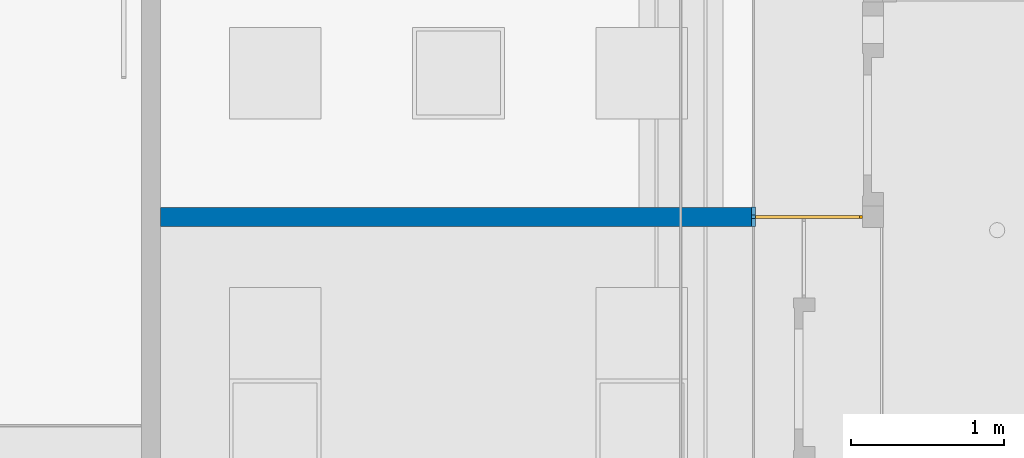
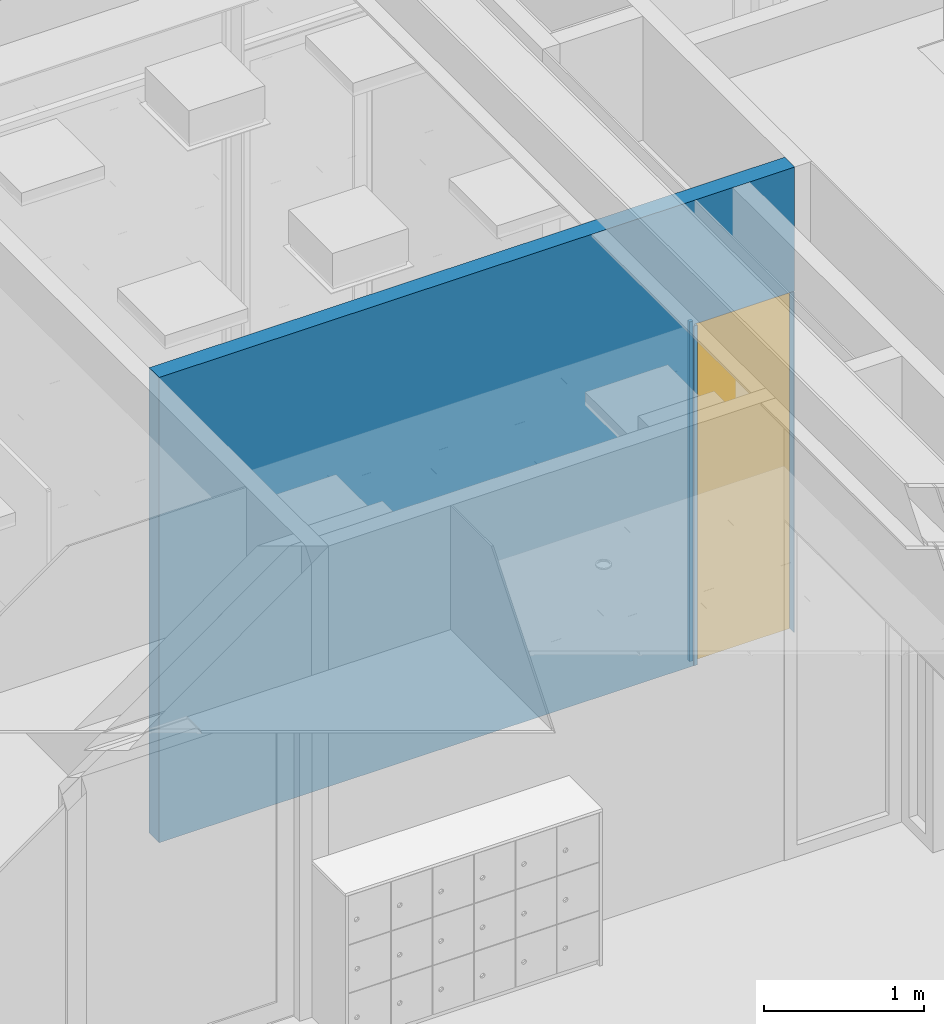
# One storey, part 65 of 347: 2 building element parts, 1 wall, 1 window, 2 openings, 1 element without a shape of its own.
"""IFC2X3 building model written with IfcOpenShell, lengths in millimetres."""

from ifc_helpers import new_model, entity, si_unit, converted_unit, derived_unit, money_unit, direction, frame, origin_with_axes, place, context, subcontext, project, spatial, open_shell, faceted_brep, surface_model, source, transform, mapped, material, type_object, type_shapes, element, fill, aggregate, save


model = new_model("IFC2X3")

# Units and contexts
model_context = context("Model", 3, precision=0.01, world=origin_with_axes(), true_north=direction((0.0, 1.0)))
plan_context = context("Plan", 3, precision=0.01, world=origin_with_axes(), true_north=direction((0.0, 1.0)))
body_context = subcontext(model_context, "Body", "Model", "MODEL_VIEW")
ifc_project = project(units=[si_unit("LENGTHUNIT", "METRE", prefix="MILLI"), si_unit("AREAUNIT", "SQUARE_METRE"), si_unit("VOLUMEUNIT", "CUBIC_METRE"), converted_unit("PLANEANGLEUNIT", "DEGREE", entity("IfcPlaneAngleMeasure", 0.0174532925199), si_unit("PLANEANGLEUNIT", "RADIAN"), dimensions=[0, 0, 0, 0, 0, 0, 0]), money_unit("EUR"), converted_unit("TIMEUNIT", "Year", entity("IfcTimeMeasure", 31556926.0), si_unit("TIMEUNIT", "SECOND"), dimensions=[0, 0, 1, 0, 0, 0, 0]), si_unit("MASSUNIT", "GRAM", prefix="KILO"), si_unit("THERMODYNAMICTEMPERATUREUNIT", "DEGREE_CELSIUS"), si_unit("LUMINOUSINTENSITYUNIT", "LUMEN"), si_unit("ENERGYUNIT", "JOULE", prefix="MEGA"), derived_unit("THERMALCONDUCTANCEUNIT", [(si_unit("POWERUNIT", "WATT"), 1), (si_unit("LENGTHUNIT", "METRE"), -1), (si_unit("THERMODYNAMICTEMPERATUREUNIT", "KELVIN"), -1)]), derived_unit("SPECIFICHEATCAPACITYUNIT", [(si_unit("ENERGYUNIT", "JOULE"), 1), (si_unit("MASSUNIT", "GRAM", prefix="KILO"), -1), (si_unit("THERMODYNAMICTEMPERATUREUNIT", "KELVIN"), -1)]), derived_unit("MASSDENSITYUNIT", [(si_unit("MASSUNIT", "GRAM", prefix="KILO"), 1), (si_unit("VOLUMEUNIT", "CUBIC_METRE"), -1)])], contexts=[model_context, plan_context])

# Site, building, storey
site_placement = place(None, origin_with_axes())
site = spatial("IfcSite", under=ifc_project, at=site_placement, Name="Site", CompositionType="ELEMENT")
building_placement = place(site_placement, origin_with_axes())
building = spatial("IfcBuilding", under=site, at=building_placement, Name="Naam gebouw", CompositionType="ELEMENT")
storey_placement = place(building_placement, origin_with_axes())
storey = spatial("IfcBuildingStorey", under=building, at=storey_placement, Name="begane grond", CompositionType="ELEMENT", Elevation=0.0)

# Wall, openings, windows, building element parts
ifc_material_1 = material(Name="ALG - LICHTE SCHEIDINGSWAND")
wall_type = type_object("IfcWallType", Name="ALG LSW 125 125", PredefinedType="NOTDEFINED")
wall_placement = place(storey_placement, frame((32075.0, 41087.5, 0.0), z_axis=(0.0, 0.0, 1.0), x_axis=(1.0, 0.0, 0.0)))
wall = element("IfcWall", 1, at=wall_placement, inside=storey, type_object=wall_type, material=ifc_material_1, Name="22_GF 125 ECO DGS/2.75.2A", context=body_context, shape_type="Brep", body=[
    faceted_brep([(4725.0, 125.0, 0.0), (4718.0, 125.0, 0.0), (4718.0, 124.99995108, 2600.0), (4725.00004134, 124.999950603, 2600.0), (4718.0, 0.0, 0.0), (4725.0, 0.0, 0.0), (4718.0, 0.0, 2600.0), (4725.00004134, 0.0, 2600.0)], [[[0, 1, 2, 3]], [[4, 1, 0, 5]], [[6, 2, 1, 4]], [[3, 2, 6, 7]], [[5, 0, 3, 7]], [[6, 4, 5, 7]]]),
    faceted_brep([(3999.99981485, 0.0, 2600.0), (3999.99983, 125.0, 2600.0), (3999.99983, 125.0, 2612.0), (3999.99981485, 0.0, 2612.0), (3994.0, 0.0, 2600.0), (3994.0, 125.0, 2600.0), (125.0, 125.0, 3560.0), (4725.0, 125.0, 3560.0), (4725.00004134, 124.999950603, 2612.0), (3994.0, 125.0, 0.0), (125.0, 125.0, 0.0), (4725.00004134, 0.0, 2612.0), (4725.0, 0.0, 3560.0), (125.0, 0.0, 3560.0), (125.0, 0.0, 0.0), (3994.0, 0.0, 0.0)], [[[0, 1, 2, 3]], [[4, 5, 1, 0]], [[6, 7, 8, 2, 1, 5, 9, 10]], [[2, 8, 11, 3]], [[4, 0, 3, 11, 12, 13, 14, 15]], [[15, 9, 5, 4]], [[13, 12, 7, 6]], [[11, 8, 7, 12]], [[10, 9, 15, 14]], [[14, 13, 6, 10]]]),
])
opening_1_placement = place(wall_placement, frame((4006.5, 0.0, 0.0), z_axis=(0.0, 0.0, 1.0), x_axis=(1.0, 0.0, 0.0)))
opening_1 = element("IfcOpeningElement", 2, at=opening_1_placement, cuts=wall, Name="31_-", context=body_context, shape_type="Brep", body=[
    faceted_brep([(12.5, -125.0, 2600.0), (12.5, -125.0, 0.0), (12.5, 50.0, 0.0), (12.5, 50.0, 2600.0), (-12.5, -125.0, 2600.0), (-12.5, -125.0, 0.0), (-12.5, 50.0, 0.0), (-12.5, 50.0, 2600.0)], [[[0, 1, 2, 3]], [[0, 4, 5, 1]], [[1, 5, 6, 2]], [[3, 2, 6, 7]], [[4, 0, 3, 7]], [[5, 4, 7, 6]]]),
    faceted_brep([(12.5, 225.0, 0.0), (12.5, 225.0, 2600.0), (12.5, 50.0, 2600.0), (12.5, 50.0, 0.0), (-12.5, 225.0, 0.0), (-12.5, 225.0, 2600.0), (-12.5, 50.0, 2600.0), (-12.5, 50.0, 0.0)], [[[0, 1, 2, 3]], [[0, 4, 5, 1]], [[1, 5, 6, 2]], [[3, 2, 6, 7]], [[4, 0, 3, 7]], [[5, 4, 7, 6]]]),
])
opening_2_placement = place(wall_placement, frame((4356.0, 0.0, 0.0), z_axis=(0.0, 0.0, 1.0), x_axis=(1.0, 0.0, 0.0)))
opening_2 = element("IfcOpeningElement", 3, at=opening_2_placement, cuts=wall, Name="32_10.01", context=body_context, shape_type="Brep", body=[
    faceted_brep([(362.0, 52.5, 2600.0), (362.0, 52.5, 0.0), (362.0, 250.0, 0.0), (362.0, 250.0, 2600.0), (-362.0, 52.5, 2600.0), (-362.0, 52.5, 0.0), (-362.0, 250.0, 0.0), (-362.0, 250.0, 2600.0)], [[[0, 1, 2, 3]], [[0, 4, 5, 1]], [[1, 5, 6, 2]], [[3, 2, 6, 7]], [[4, 0, 3, 7]], [[5, 4, 7, 6]]]),
    faceted_brep([(362.0, 52.5, 0.0), (362.0, 52.5, 2600.0), (362.0, -125.0, 2600.0), (362.0, -125.0, 0.0), (-362.0, 52.5, 0.0), (-362.0, 52.5, 2600.0), (-362.0, -125.0, 2600.0), (-362.0, -125.0, 0.0)], [[[0, 1, 2, 3]], [[0, 4, 5, 1]], [[1, 5, 6, 2]], [[3, 2, 6, 7]], [[4, 0, 3, 7]], [[5, 4, 7, 6]]]),
])
window_style_1 = type_object("IfcWindowStyle", Name="R1 25", ConstructionType="NOTDEFINED", OperationType="SINGLE_PANEL", ParameterTakesPrecedence=False, Sizeable=False)
shared_shape_1 = source(origin_with_axes(), body_context, "Body", "SurfaceModel", [
    faceted_brep([(342.0, -20.0, 2580.0), (362.0, -20.0, 2580.0), (362.0, 0.0, 2580.0), (342.0, 0.0, 2580.0), (342.0, -20.0, 20.0), (362.0, -20.0, 20.0), (362.0, 0.0, 20.0), (342.0, 0.0, 20.0)], [[[0, 1, 2, 3]], [[0, 4, 5, 1]], [[1, 5, 6, 2]], [[3, 2, 6, 7]], [[4, 0, 3, 7]], [[5, 4, 7, 6]]]),
    faceted_brep([(-342.0, -20.0, 20.0), (-362.0, -20.0, 20.0), (-362.0, 0.0, 20.0), (-342.0, 0.0, 20.0), (-342.0, -20.0, 2580.0), (-362.0, -20.0, 2580.0), (-362.0, 0.0, 2580.0), (-342.0, 0.0, 2580.0)], [[[0, 1, 2, 3]], [[0, 4, 5, 1]], [[1, 5, 6, 2]], [[3, 2, 6, 7]], [[4, 0, 3, 7]], [[5, 4, 7, 6]]]),
    faceted_brep([(342.0, -20.0, 20.0), (362.0, -20.0, 20.0), (362.0, 0.0, 20.0), (342.0, 0.0, 20.0), (-342.0, -20.0, 20.0), (-362.0, -20.0, 20.0), (-362.0, -20.0, 0.0), (362.0, -20.0, 0.0), (362.0, 0.0, 0.0), (-362.0, 0.0, 0.0), (-362.0, 0.0, 20.0), (-342.0, 0.0, 20.0)], [[[0, 1, 2, 3]], [[0, 4, 5, 6, 7, 1]], [[1, 7, 8, 2]], [[3, 2, 8, 9, 10, 11]], [[4, 0, 3, 11]], [[5, 4, 11, 10]], [[6, 5, 10, 9]], [[7, 6, 9, 8]]]),
    faceted_brep([(-342.0, -20.0, 2580.0), (-362.0, -20.0, 2580.0), (-362.0, 0.0, 2580.0), (-342.0, 0.0, 2580.0), (342.0, -20.0, 2580.0), (362.0, -20.0, 2580.0), (362.0, -20.0, 2600.0), (-362.0, -20.0, 2600.0), (-362.0, 0.0, 2600.0), (362.0, 0.0, 2600.0), (362.0, 0.0, 2580.0), (342.0, 0.0, 2580.0)], [[[0, 1, 2, 3]], [[0, 4, 5, 6, 7, 1]], [[1, 7, 8, 2]], [[3, 2, 8, 9, 10, 11]], [[4, 0, 3, 11]], [[5, 4, 11, 10]], [[6, 5, 10, 9]], [[7, 6, 9, 8]]]),
    surface_model("IfcShellBasedSurfaceModel", [(342.0, -20.0, 20.0), (342.0, -20.0, 2580.0), (-342.0, -20.0, 2580.0), (-342.0, -20.0, 20.0)], [open_shell([[[0, 1, 2, 3]]])]),
    surface_model("IfcShellBasedSurfaceModel", [(342.0, 0.0, 20.0), (-342.0, 0.0, 20.0), (-342.0, 0.0, 2580.0), (342.0, 0.0, 2580.0)], [open_shell([[[0, 1, 2, 3]]])]),
])
type_shapes(window_style_1, [shared_shape_1])
window_1_placement = place(opening_2_placement, frame((362.0, 0.0, 0.0), z_axis=(0.0, 0.0, 1.0), x_axis=(-1.0, 0.0, 0.0)))
window_1 = element("IfcWindow", 4, at=window_1_placement, inside=storey, type_object=window_style_1, Name="32_10.01", ObjectType="WINDOW", OverallHeight=2600.0, OverallWidth=724.0, context=body_context, shape_type="MappedRepresentation", body=[
    mapped(shared_shape_1, transform((362.0, -52.5, 0.0))),
])
fill(opening_2, window_1)
window_style_2 = type_object("IfcWindowStyle", Name="32 glaslatten 125mm wand", ConstructionType="NOTDEFINED", OperationType="NOTDEFINED", ParameterTakesPrecedence=False, Sizeable=False)
window_2_placement = place(opening_1_placement, frame((12.5, 0.0, 0.0), z_axis=(0.0, 0.0, 1.0), x_axis=(-1.0, 0.0, 0.0)))
window_2 = element("IfcWindow", 5, at=window_2_placement, inside=storey, type_object=window_style_2, Name="31_-", ObjectType="WINDOW", OverallHeight=2600.0, OverallWidth=25.0)
fill(opening_1, window_2)
ifc_material_2 = material(Name="32 Hout binnenkozijn")
shared_shape_2 = source(origin_with_axes(), body_context, "Body", "Brep", [
    faceted_brep([(12.5, -77.0, 2600.0), (-12.5, -77.0, 2600.0), (-12.5, -77.0, 0.0), (12.5, -77.0, 0.0), (12.5, -25.0, 2600.0), (-12.5, -25.0, 2600.0), (-12.5, -25.0, 0.0), (12.5, -25.0, 0.0)], [[[0, 1, 2, 3]], [[0, 4, 5, 1]], [[1, 5, 6, 2]], [[3, 2, 6, 7]], [[4, 0, 3, 7]], [[5, 4, 7, 6]]]),
    faceted_brep([(12.5, 0.0, 2600.0), (-12.5, 0.0, 2600.0), (-12.5, 0.0, 0.0), (12.5, 0.0, 0.0), (12.5, 52.0, 2600.0), (-12.5, 52.0, 2600.0), (-12.5, 52.0, 0.0), (12.5, 52.0, 0.0)], [[[0, 1, 2, 3]], [[0, 4, 5, 1]], [[1, 5, 6, 2]], [[3, 2, 6, 7]], [[4, 0, 3, 7]], [[5, 4, 7, 6]]]),
])
building_element_part_1_placement = place(window_2_placement, origin_with_axes())
building_element_part_1 = element("IfcBuildingElementPart", 6, at=building_element_part_1_placement, material=ifc_material_2, Name="32 Hout binnenkozijn", context=body_context, shape_type="MappedRepresentation", body=[
    mapped(shared_shape_2, transform((12.5, -50.0, 0.0))),
])
ifc_material_3 = material(Name="Membraan - rubber")
shared_shape_3 = source(origin_with_axes(), body_context, "Body", "Brep", [
    faceted_brep([(12.5, -25.0, 2600.0), (-12.5, -25.0, 2600.0), (-12.5, -25.0, 0.0), (12.5, -25.0, 0.0), (12.5, 0.0, 2600.0), (-12.5, 0.0, 2600.0), (-12.5, 0.0, 0.0), (12.5, 0.0, 0.0)], [[[0, 1, 2, 3]], [[0, 4, 5, 1]], [[1, 5, 6, 2]], [[3, 2, 6, 7]], [[4, 0, 3, 7]], [[5, 4, 7, 6]]]),
])
building_element_part_2_placement = place(window_2_placement, origin_with_axes())
building_element_part_2 = element("IfcBuildingElementPart", 7, at=building_element_part_2_placement, material=ifc_material_3, Name="Membraan - rubber", context=body_context, shape_type="MappedRepresentation", body=[
    mapped(shared_shape_3, transform((12.5, -50.0, 0.0))),
])
aggregate(window_2, [building_element_part_1, building_element_part_2])

save(model, "model.ifc")
